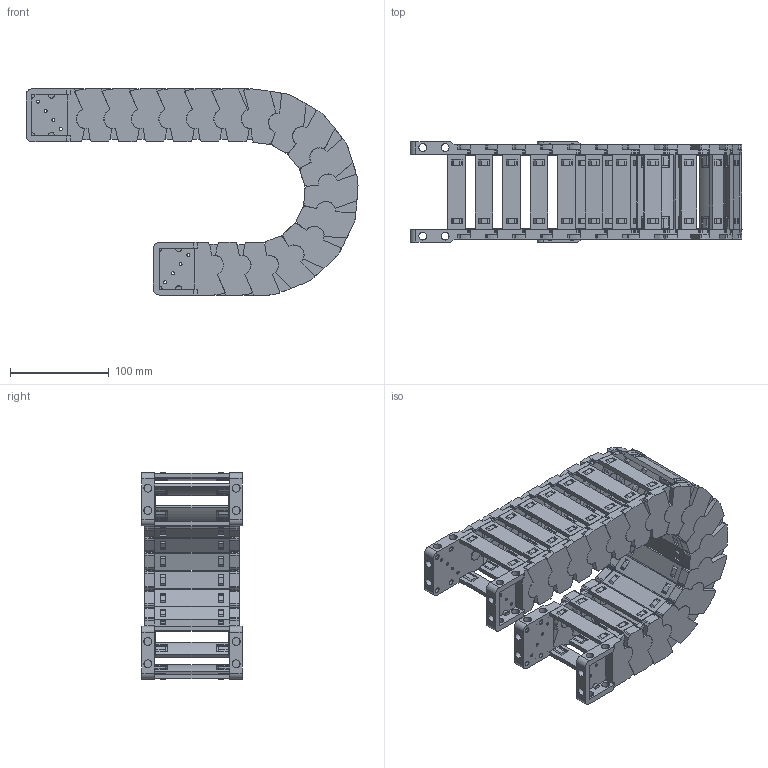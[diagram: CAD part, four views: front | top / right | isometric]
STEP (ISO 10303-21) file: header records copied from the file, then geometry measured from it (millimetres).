
FILE_DESCRIPTION((''),'2;1');
FILE_NAME('JY-42X75-R75_ASM','2022-05-06T10:48:38',('admin'),(''),'CREO PARAMETRIC BY PTC INC, 2021164','CREO PARAMETRIC BY PTC INC, 2021164','');
FILE_SCHEMA(('CONFIG_CONTROL_DESIGN','GEOMETRIC_VALIDATION_PROPERTIES_MIM'));
Length unit declared in the file: millimetre
Products named in the file (11): 42XL-L; 42-52XL-YP; 42XL-R; ASM0001_ASM; 42-LTT-A-L; 42-LTT-A-R; 42XL-LTT-A_ASM; 42-LTT-B-L; 42-LTT-B-R; 42XL-LTT-B_ASM; JY-42X75-R75_ASM
Assembly tree (30 placements, depth 3):
  JY-42X75-R75_ASM
    ASM0001_ASM  x16
      42XL-L
      42-52XL-YP
      42XL-R
    42XL-LTT-A_ASM
      42-LTT-A-L
      42-52XL-YP  x2
      42-LTT-A-R
    42XL-LTT-B_ASM
      42-LTT-B-L
      42-52XL-YP  x2
      42-LTT-B-R
Bounding box: 335.76 x 101.5 x 208.45 mm (x, y, z)
Volume: 718104.9 mm3; surface area: 418865 mm2
Topology: 72 solids, 72 shells, 3978 faces, 11912 edges, 8060 vertices
Faces by surface type: plane 2638, cylinder 930, cone 326, bspline 66, torus 18
Entity records: 27215 total; most frequent: CARTESIAN_POINT 7384, ORIENTED_EDGE 4024, DIRECTION 3958, EDGE_CURVE 2012, AXIS2_PLACEMENT_3D 1429, VERTEX_POINT 1360, VECTOR 1100, LINE 1100
